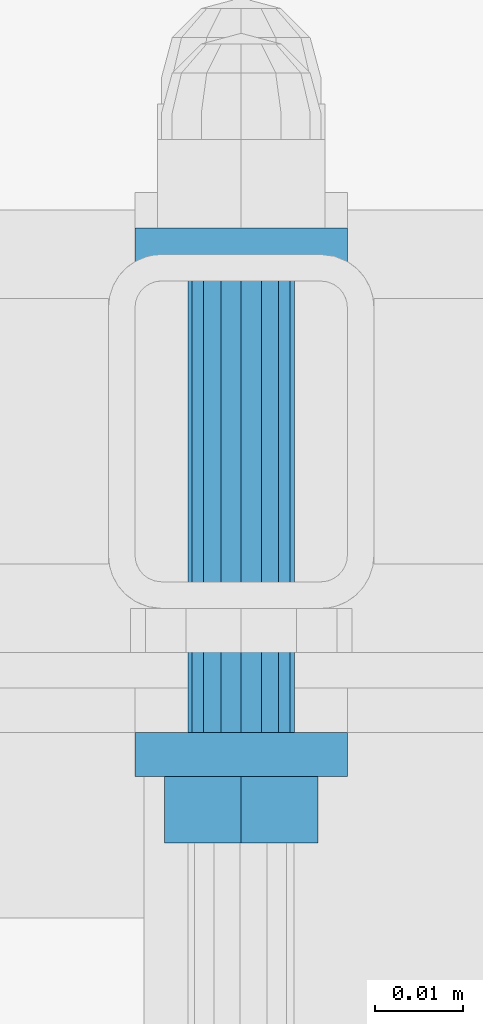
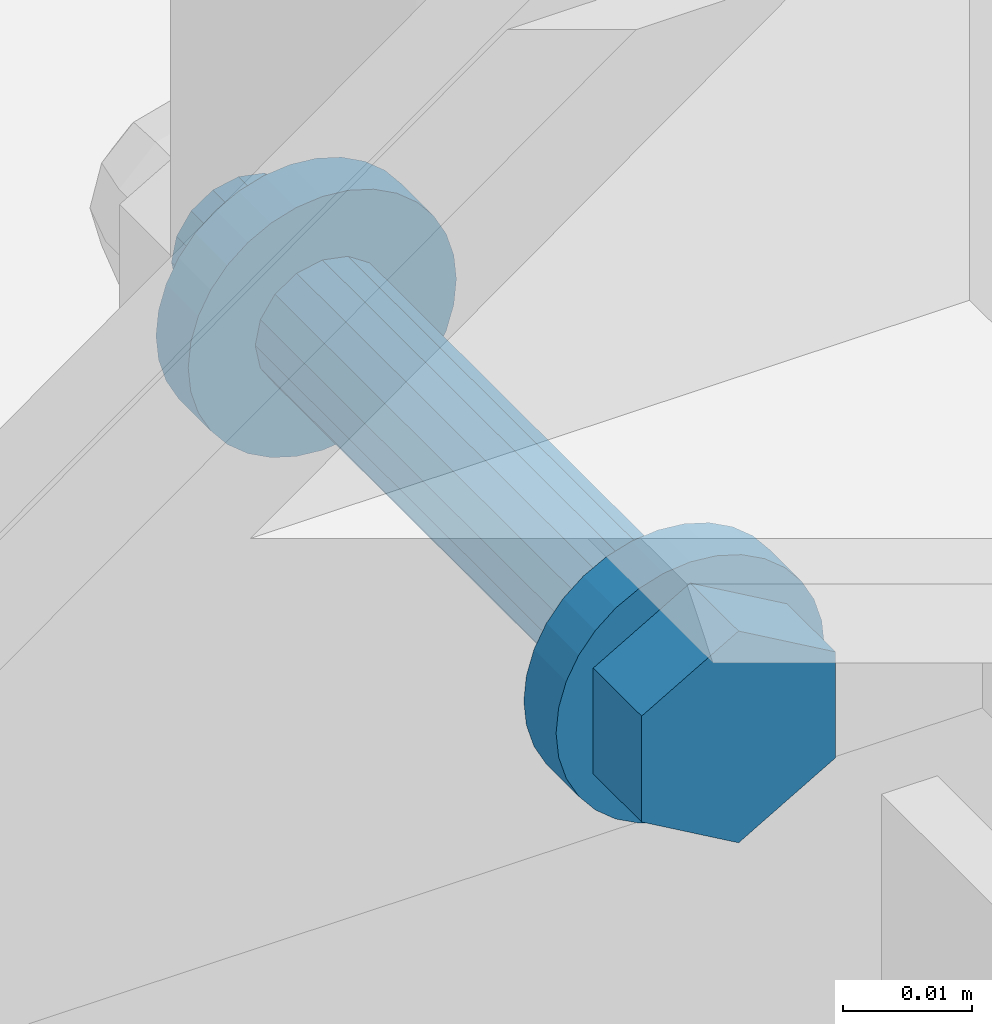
# One storey, part 84 of 116: 1 mechanical fastener.
"""IFC2X3 building model written with IfcOpenShell, lengths in millimetres."""

from ifc_helpers import new_model, entity, si_unit, converted_unit, origin_with_axes, place, context, project, spatial, faceted_brep, element, save


model = new_model("IFC2X3")

# Units and contexts
model_context = context("Model", 3, precision=1e-09, world=origin_with_axes())
ifc_project = project(units=[si_unit("LENGTHUNIT", "METRE", prefix="MILLI"), si_unit("AREAUNIT", "SQUARE_METRE"), si_unit("VOLUMEUNIT", "CUBIC_METRE"), converted_unit("PLANEANGLEUNIT", "DEGREE", entity("IfcPlaneAngleMeasure", 0.01745329), si_unit("PLANEANGLEUNIT", "RADIAN"), dimensions=[0, 0, 0, 0, 0, 0, 0])], contexts=[model_context])

# Site, building, storey
site_placement = place(None, origin_with_axes())
site = spatial("IfcSite", under=ifc_project, at=site_placement, Name="Site", CompositionType="ELEMENT")
building_placement = place(site_placement, origin_with_axes())
building = spatial("IfcBuilding", under=site, at=building_placement, Name="Struktur 1", CompositionType="ELEMENT")
storey_placement = place(building_placement, origin_with_axes())
storey = spatial("IfcBuildingStorey", under=building, at=storey_placement, Name="Default Storey", CompositionType="ELEMENT", Elevation=0.0)

# Mechanical fastener
mechanical_fastener_placement = place(None, origin_with_axes())
element("IfcMechanicalFastener", 1, at=mechanical_fastener_placement, inside=storey, ObjectType="-", NominalDiameter=12.0, NominalLength=70.0, context=model_context, shape_type="Brep", body=[
    faceted_brep([(59725.049134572, 10418.858883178, -843.0), (59725.049134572, 10421.358883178, -843.0), (59725.279711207, 10421.358883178, -845.341083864), (59725.279711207, 10418.858883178, -845.341083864), (59725.962580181, 10421.358883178, -847.592201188), (59725.962580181, 10418.858883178, -847.592201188), (59727.071499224, 10421.358883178, -849.666842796), (59727.071499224, 10418.858883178, -849.666842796), (59728.563853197, 10421.358883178, -851.485281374), (59728.563853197, 10418.858883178, -851.485281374), (59730.382291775, 10421.358883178, -852.977635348), (59730.382291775, 10418.858883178, -852.977635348), (59732.456933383, 10421.358883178, -854.08655439), (59732.456933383, 10418.858883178, -854.08655439), (59734.708050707, 10421.358883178, -854.769423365), (59734.708050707, 10418.858883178, -854.769423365), (59737.049134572, 10421.358883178, -855.0), (59737.049134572, 10418.858883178, -855.0), (59739.390218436, 10421.358883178, -854.769423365), (59739.390218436, 10418.858883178, -854.769423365), (59741.64133576, 10421.358883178, -854.08655439), (59741.64133576, 10418.858883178, -854.08655439), (59743.715977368, 10421.358883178, -852.977635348), (59743.715977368, 10418.858883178, -852.977635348), (59745.534415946, 10421.358883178, -851.485281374), (59745.534415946, 10418.858883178, -851.485281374), (59747.026769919, 10421.358883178, -849.666842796), (59747.026769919, 10418.858883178, -849.666842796), (59748.135688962, 10421.358883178, -847.592201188), (59748.135688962, 10418.858883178, -847.592201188), (59748.818557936, 10421.358883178, -845.341083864), (59748.818557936, 10418.858883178, -845.341083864), (59749.049134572, 10421.358883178, -843.0), (59749.049134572, 10418.858883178, -843.0), (59748.818557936, 10421.358883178, -840.658916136), (59748.818557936, 10418.858883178, -840.658916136), (59748.135688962, 10421.358883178, -838.407798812), (59748.135688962, 10418.858883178, -838.407798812), (59747.026769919, 10421.358883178, -836.333157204), (59747.026769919, 10418.858883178, -836.333157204), (59745.534415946, 10421.358883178, -834.514718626), (59745.534415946, 10418.858883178, -834.514718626), (59743.715977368, 10421.358883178, -833.022364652), (59743.715977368, 10418.858883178, -833.022364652), (59741.64133576, 10421.358883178, -831.91344561), (59741.64133576, 10418.858883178, -831.91344561), (59739.390218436, 10421.358883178, -831.230576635), (59739.390218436, 10418.858883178, -831.230576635), (59737.049134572, 10421.358883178, -831.0), (59737.049134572, 10418.858883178, -831.0), (59734.708050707, 10421.358883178, -831.230576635), (59734.708050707, 10418.858883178, -831.230576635), (59732.456933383, 10421.358883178, -831.91344561), (59732.456933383, 10418.858883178, -831.91344561), (59730.382291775, 10421.358883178, -833.022364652), (59730.382291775, 10418.858883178, -833.022364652), (59728.563853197, 10421.358883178, -834.514718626), (59728.563853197, 10418.858883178, -834.514718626), (59727.071499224, 10421.358883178, -836.333157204), (59727.071499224, 10418.858883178, -836.333157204), (59725.962580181, 10421.358883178, -838.407798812), (59725.962580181, 10418.858883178, -838.407798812), (59725.279711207, 10421.358883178, -840.658916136), (59725.279711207, 10418.858883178, -840.658916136)], [[[0, 1, 2, 3]], [[3, 2, 4, 5]], [[5, 4, 6, 7]], [[7, 6, 8, 9]], [[9, 8, 10, 11]], [[11, 10, 12, 13]], [[13, 12, 14, 15]], [[15, 14, 16, 17]], [[17, 16, 18, 19]], [[19, 18, 20, 21]], [[21, 20, 22, 23]], [[23, 22, 24, 25]], [[25, 24, 26, 27]], [[27, 26, 28, 29]], [[29, 28, 30, 31]], [[31, 30, 32, 33]], [[33, 32, 34, 35]], [[35, 34, 36, 37]], [[37, 36, 38, 39]], [[39, 38, 40, 41]], [[41, 40, 42, 43]], [[43, 42, 44, 45]], [[45, 44, 46, 47]], [[47, 46, 48, 49]], [[49, 48, 50, 51]], [[51, 50, 52, 53]], [[53, 52, 54, 55]], [[55, 54, 56, 57]], [[57, 56, 58, 59]], [[59, 58, 60, 61]], [[61, 60, 62, 63]], [[63, 62, 1, 0]], [[0, 3, 5, 7, 9, 11, 13, 15, 17, 19, 21, 23, 25, 27, 29, 31, 33, 35, 37, 39, 41, 43, 45, 47, 49, 51, 53, 55, 57, 59, 61, 63]], [[1, 62, 60, 58, 56, 54, 52, 50, 48, 46, 44, 42, 40, 38, 36, 34, 32, 30, 28, 26, 24, 22, 20, 18, 16, 14, 12, 10, 8, 6, 4, 2]]]),
    faceted_brep([(59725.049134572, 10416.358883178, -843.0), (59725.049134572, 10418.858883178, -843.0), (59725.279711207, 10418.858883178, -845.341083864), (59725.279711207, 10416.358883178, -845.341083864), (59725.962580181, 10418.858883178, -847.592201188), (59725.962580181, 10416.358883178, -847.592201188), (59727.071499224, 10418.858883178, -849.666842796), (59727.071499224, 10416.358883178, -849.666842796), (59728.563853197, 10418.858883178, -851.485281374), (59728.563853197, 10416.358883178, -851.485281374), (59730.382291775, 10418.858883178, -852.977635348), (59730.382291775, 10416.358883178, -852.977635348), (59732.456933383, 10418.858883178, -854.08655439), (59732.456933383, 10416.358883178, -854.08655439), (59734.708050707, 10418.858883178, -854.769423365), (59734.708050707, 10416.358883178, -854.769423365), (59737.049134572, 10418.858883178, -855.0), (59737.049134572, 10416.358883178, -855.0), (59739.390218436, 10418.858883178, -854.769423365), (59739.390218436, 10416.358883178, -854.769423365), (59741.64133576, 10418.858883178, -854.08655439), (59741.64133576, 10416.358883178, -854.08655439), (59743.715977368, 10418.858883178, -852.977635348), (59743.715977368, 10416.358883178, -852.977635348), (59745.534415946, 10418.858883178, -851.485281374), (59745.534415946, 10416.358883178, -851.485281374), (59747.026769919, 10418.858883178, -849.666842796), (59747.026769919, 10416.358883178, -849.666842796), (59748.135688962, 10418.858883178, -847.592201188), (59748.135688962, 10416.358883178, -847.592201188), (59748.818557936, 10418.858883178, -845.341083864), (59748.818557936, 10416.358883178, -845.341083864), (59749.049134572, 10418.858883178, -843.0), (59749.049134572, 10416.358883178, -843.0), (59748.818557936, 10418.858883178, -840.658916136), (59748.818557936, 10416.358883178, -840.658916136), (59748.135688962, 10418.858883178, -838.407798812), (59748.135688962, 10416.358883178, -838.407798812), (59747.026769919, 10418.858883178, -836.333157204), (59747.026769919, 10416.358883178, -836.333157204), (59745.534415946, 10418.858883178, -834.514718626), (59745.534415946, 10416.358883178, -834.514718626), (59743.715977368, 10418.858883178, -833.022364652), (59743.715977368, 10416.358883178, -833.022364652), (59741.64133576, 10418.858883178, -831.91344561), (59741.64133576, 10416.358883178, -831.91344561), (59739.390218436, 10418.858883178, -831.230576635), (59739.390218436, 10416.358883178, -831.230576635), (59737.049134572, 10418.858883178, -831.0), (59737.049134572, 10416.358883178, -831.0), (59734.708050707, 10418.858883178, -831.230576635), (59734.708050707, 10416.358883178, -831.230576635), (59732.456933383, 10418.858883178, -831.91344561), (59732.456933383, 10416.358883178, -831.91344561), (59730.382291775, 10418.858883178, -833.022364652), (59730.382291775, 10416.358883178, -833.022364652), (59728.563853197, 10418.858883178, -834.514718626), (59728.563853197, 10416.358883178, -834.514718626), (59727.071499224, 10418.858883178, -836.333157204), (59727.071499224, 10416.358883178, -836.333157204), (59725.962580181, 10418.858883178, -838.407798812), (59725.962580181, 10416.358883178, -838.407798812), (59725.279711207, 10418.858883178, -840.658916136), (59725.279711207, 10416.358883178, -840.658916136)], [[[0, 1, 2, 3]], [[3, 2, 4, 5]], [[5, 4, 6, 7]], [[7, 6, 8, 9]], [[9, 8, 10, 11]], [[11, 10, 12, 13]], [[13, 12, 14, 15]], [[15, 14, 16, 17]], [[17, 16, 18, 19]], [[19, 18, 20, 21]], [[21, 20, 22, 23]], [[23, 22, 24, 25]], [[25, 24, 26, 27]], [[27, 26, 28, 29]], [[29, 28, 30, 31]], [[31, 30, 32, 33]], [[33, 32, 34, 35]], [[35, 34, 36, 37]], [[37, 36, 38, 39]], [[39, 38, 40, 41]], [[41, 40, 42, 43]], [[43, 42, 44, 45]], [[45, 44, 46, 47]], [[47, 46, 48, 49]], [[49, 48, 50, 51]], [[51, 50, 52, 53]], [[53, 52, 54, 55]], [[55, 54, 56, 57]], [[57, 56, 58, 59]], [[59, 58, 60, 61]], [[61, 60, 62, 63]], [[63, 62, 1, 0]], [[0, 3, 5, 7, 9, 11, 13, 15, 17, 19, 21, 23, 25, 27, 29, 31, 33, 35, 37, 39, 41, 43, 45, 47, 49, 51, 53, 55, 57, 59, 61, 63]], [[1, 62, 60, 58, 56, 54, 52, 50, 48, 46, 44, 42, 40, 38, 36, 34, 32, 30, 28, 26, 24, 22, 20, 18, 16, 14, 12, 10, 8, 6, 4, 2]]]),
    faceted_brep([(59745.722378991, 10416.358883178, -848.0075), (59745.722378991, 10408.858883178, -848.0075), (59737.049134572, 10408.858883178, -853.015), (59737.049134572, 10416.358883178, -853.015), (59728.375890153, 10408.858883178, -848.0075), (59728.375890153, 10416.358883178, -848.0075), (59728.375890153, 10408.858883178, -837.9925), (59728.375890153, 10416.358883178, -837.9925), (59737.049134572, 10408.858883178, -832.985), (59737.049134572, 10416.358883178, -832.985), (59745.722378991, 10408.858883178, -837.9925), (59745.722378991, 10416.358883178, -837.9925)], [[[0, 1, 2, 3]], [[3, 2, 4, 5]], [[5, 4, 6, 7]], [[7, 6, 8, 9]], [[9, 8, 10, 11]], [[11, 10, 1, 0]], [[4, 2, 1, 10, 8, 6]], [[0, 3, 5, 7, 9, 11]]]),
    faceted_brep([(59731.049134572, 10421.358883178, -843.0), (59731.049134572, 10473.357883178, -843.0), (59731.505857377, 10473.357883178, -845.296100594), (59731.505857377, 10421.358883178, -845.296100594), (59732.806493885, 10473.357883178, -847.242640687), (59732.806493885, 10421.358883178, -847.242640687), (59734.753033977, 10473.357883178, -848.543277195), (59734.753033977, 10421.358883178, -848.543277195), (59737.049134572, 10473.357883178, -849.0), (59737.049134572, 10421.358883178, -849.0), (59739.345235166, 10473.357883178, -848.543277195), (59739.345235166, 10421.358883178, -848.543277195), (59741.291775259, 10473.357883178, -847.242640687), (59741.291775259, 10421.358883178, -847.242640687), (59742.592411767, 10473.357883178, -845.296100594), (59742.592411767, 10421.358883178, -845.296100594), (59743.049134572, 10473.357883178, -843.0), (59743.049134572, 10421.358883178, -843.0), (59742.592411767, 10473.357883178, -840.703899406), (59742.592411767, 10421.358883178, -840.703899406), (59741.291775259, 10473.357883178, -838.757359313), (59741.291775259, 10421.358883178, -838.757359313), (59739.345235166, 10473.357883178, -837.456722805), (59739.345235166, 10421.358883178, -837.456722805), (59737.049134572, 10473.357883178, -837.0), (59737.049134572, 10421.358883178, -837.0), (59734.753033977, 10473.357883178, -837.456722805), (59734.753033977, 10421.358883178, -837.456722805), (59732.806493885, 10473.357883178, -838.757359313), (59732.806493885, 10421.358883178, -838.757359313), (59731.505857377, 10473.357883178, -840.703899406), (59731.505857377, 10421.358883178, -840.703899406)], [[[0, 1, 2, 3]], [[3, 2, 4, 5]], [[5, 4, 6, 7]], [[7, 6, 8, 9]], [[9, 8, 10, 11]], [[11, 10, 12, 13]], [[13, 12, 14, 15]], [[15, 14, 16, 17]], [[17, 16, 18, 19]], [[19, 18, 20, 21]], [[21, 20, 22, 23]], [[23, 22, 24, 25]], [[25, 24, 26, 27]], [[27, 26, 28, 29]], [[29, 28, 30, 31]], [[31, 30, 1, 0]], [[0, 3, 5, 7, 9, 11, 13, 15, 17, 19, 21, 23, 25, 27, 29, 31]], [[1, 30, 28, 26, 24, 22, 20, 18, 16, 14, 12, 10, 8, 6, 4, 2]]]),
    faceted_brep([(59725.049134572, 10473.357883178, -843.0), (59725.049134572, 10475.857883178, -843.0), (59725.279711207, 10475.857883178, -845.341083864), (59725.279711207, 10473.357883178, -845.341083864), (59725.962580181, 10475.857883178, -847.592201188), (59725.962580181, 10473.357883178, -847.592201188), (59727.071499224, 10475.857883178, -849.666842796), (59727.071499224, 10473.357883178, -849.666842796), (59728.563853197, 10475.857883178, -851.485281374), (59728.563853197, 10473.357883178, -851.485281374), (59730.382291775, 10475.857883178, -852.977635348), (59730.382291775, 10473.357883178, -852.977635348), (59732.456933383, 10475.857883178, -854.08655439), (59732.456933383, 10473.357883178, -854.08655439), (59734.708050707, 10475.857883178, -854.769423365), (59734.708050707, 10473.357883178, -854.769423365), (59737.049134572, 10475.857883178, -855.0), (59737.049134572, 10473.357883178, -855.0), (59739.390218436, 10475.857883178, -854.769423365), (59739.390218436, 10473.357883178, -854.769423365), (59741.64133576, 10475.857883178, -854.08655439), (59741.64133576, 10473.357883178, -854.08655439), (59743.715977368, 10475.857883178, -852.977635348), (59743.715977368, 10473.357883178, -852.977635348), (59745.534415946, 10475.857883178, -851.485281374), (59745.534415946, 10473.357883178, -851.485281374), (59747.026769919, 10475.857883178, -849.666842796), (59747.026769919, 10473.357883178, -849.666842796), (59748.135688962, 10475.857883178, -847.592201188), (59748.135688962, 10473.357883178, -847.592201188), (59748.818557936, 10475.857883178, -845.341083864), (59748.818557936, 10473.357883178, -845.341083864), (59749.049134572, 10475.857883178, -843.0), (59749.049134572, 10473.357883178, -843.0), (59748.818557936, 10475.857883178, -840.658916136), (59748.818557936, 10473.357883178, -840.658916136), (59748.135688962, 10475.857883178, -838.407798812), (59748.135688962, 10473.357883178, -838.407798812), (59747.026769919, 10475.857883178, -836.333157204), (59747.026769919, 10473.357883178, -836.333157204), (59745.534415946, 10475.857883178, -834.514718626), (59745.534415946, 10473.357883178, -834.514718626), (59743.715977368, 10475.857883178, -833.022364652), (59743.715977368, 10473.357883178, -833.022364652), (59741.64133576, 10475.857883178, -831.91344561), (59741.64133576, 10473.357883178, -831.91344561), (59739.390218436, 10475.857883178, -831.230576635), (59739.390218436, 10473.357883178, -831.230576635), (59737.049134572, 10475.857883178, -831.0), (59737.049134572, 10473.357883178, -831.0), (59734.708050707, 10475.857883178, -831.230576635), (59734.708050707, 10473.357883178, -831.230576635), (59732.456933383, 10475.857883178, -831.91344561), (59732.456933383, 10473.357883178, -831.91344561), (59730.382291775, 10475.857883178, -833.022364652), (59730.382291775, 10473.357883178, -833.022364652), (59728.563853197, 10475.857883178, -834.514718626), (59728.563853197, 10473.357883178, -834.514718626), (59727.071499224, 10475.857883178, -836.333157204), (59727.071499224, 10473.357883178, -836.333157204), (59725.962580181, 10475.857883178, -838.407798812), (59725.962580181, 10473.357883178, -838.407798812), (59725.279711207, 10475.857883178, -840.658916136), (59725.279711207, 10473.357883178, -840.658916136)], [[[0, 1, 2, 3]], [[3, 2, 4, 5]], [[5, 4, 6, 7]], [[7, 6, 8, 9]], [[9, 8, 10, 11]], [[11, 10, 12, 13]], [[13, 12, 14, 15]], [[15, 14, 16, 17]], [[17, 16, 18, 19]], [[19, 18, 20, 21]], [[21, 20, 22, 23]], [[23, 22, 24, 25]], [[25, 24, 26, 27]], [[27, 26, 28, 29]], [[29, 28, 30, 31]], [[31, 30, 32, 33]], [[33, 32, 34, 35]], [[35, 34, 36, 37]], [[37, 36, 38, 39]], [[39, 38, 40, 41]], [[41, 40, 42, 43]], [[43, 42, 44, 45]], [[45, 44, 46, 47]], [[47, 46, 48, 49]], [[49, 48, 50, 51]], [[51, 50, 52, 53]], [[53, 52, 54, 55]], [[55, 54, 56, 57]], [[57, 56, 58, 59]], [[59, 58, 60, 61]], [[61, 60, 62, 63]], [[63, 62, 1, 0]], [[0, 3, 5, 7, 9, 11, 13, 15, 17, 19, 21, 23, 25, 27, 29, 31, 33, 35, 37, 39, 41, 43, 45, 47, 49, 51, 53, 55, 57, 59, 61, 63]], [[1, 62, 60, 58, 56, 54, 52, 50, 48, 46, 44, 42, 40, 38, 36, 34, 32, 30, 28, 26, 24, 22, 20, 18, 16, 14, 12, 10, 8, 6, 4, 2]]]),
    faceted_brep([(59725.049134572, 10475.857883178, -843.0), (59725.049134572, 10478.357883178, -843.0), (59725.279711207, 10478.357883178, -845.341083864), (59725.279711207, 10475.857883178, -845.341083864), (59725.962580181, 10478.357883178, -847.592201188), (59725.962580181, 10475.857883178, -847.592201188), (59727.071499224, 10478.357883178, -849.666842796), (59727.071499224, 10475.857883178, -849.666842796), (59728.563853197, 10478.357883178, -851.485281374), (59728.563853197, 10475.857883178, -851.485281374), (59730.382291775, 10478.357883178, -852.977635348), (59730.382291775, 10475.857883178, -852.977635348), (59732.456933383, 10478.357883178, -854.08655439), (59732.456933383, 10475.857883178, -854.08655439), (59734.708050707, 10478.357883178, -854.769423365), (59734.708050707, 10475.857883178, -854.769423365), (59737.049134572, 10478.357883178, -855.0), (59737.049134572, 10475.857883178, -855.0), (59739.390218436, 10478.357883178, -854.769423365), (59739.390218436, 10475.857883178, -854.769423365), (59741.64133576, 10478.357883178, -854.08655439), (59741.64133576, 10475.857883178, -854.08655439), (59743.715977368, 10478.357883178, -852.977635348), (59743.715977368, 10475.857883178, -852.977635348), (59745.534415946, 10478.357883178, -851.485281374), (59745.534415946, 10475.857883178, -851.485281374), (59747.026769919, 10478.357883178, -849.666842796), (59747.026769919, 10475.857883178, -849.666842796), (59748.135688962, 10478.357883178, -847.592201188), (59748.135688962, 10475.857883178, -847.592201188), (59748.818557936, 10478.357883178, -845.341083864), (59748.818557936, 10475.857883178, -845.341083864), (59749.049134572, 10478.357883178, -843.0), (59749.049134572, 10475.857883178, -843.0), (59748.818557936, 10478.357883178, -840.658916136), (59748.818557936, 10475.857883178, -840.658916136), (59748.135688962, 10478.357883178, -838.407798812), (59748.135688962, 10475.857883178, -838.407798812), (59747.026769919, 10478.357883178, -836.333157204), (59747.026769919, 10475.857883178, -836.333157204), (59745.534415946, 10478.357883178, -834.514718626), (59745.534415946, 10475.857883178, -834.514718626), (59743.715977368, 10478.357883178, -833.022364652), (59743.715977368, 10475.857883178, -833.022364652), (59741.64133576, 10478.357883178, -831.91344561), (59741.64133576, 10475.857883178, -831.91344561), (59739.390218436, 10478.357883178, -831.230576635), (59739.390218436, 10475.857883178, -831.230576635), (59737.049134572, 10478.357883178, -831.0), (59737.049134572, 10475.857883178, -831.0), (59734.708050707, 10478.357883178, -831.230576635), (59734.708050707, 10475.857883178, -831.230576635), (59732.456933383, 10478.357883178, -831.91344561), (59732.456933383, 10475.857883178, -831.91344561), (59730.382291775, 10478.357883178, -833.022364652), (59730.382291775, 10475.857883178, -833.022364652), (59728.563853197, 10478.357883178, -834.514718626), (59728.563853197, 10475.857883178, -834.514718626), (59727.071499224, 10478.357883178, -836.333157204), (59727.071499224, 10475.857883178, -836.333157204), (59725.962580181, 10478.357883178, -838.407798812), (59725.962580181, 10475.857883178, -838.407798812), (59725.279711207, 10478.357883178, -840.658916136), (59725.279711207, 10475.857883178, -840.658916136)], [[[0, 1, 2, 3]], [[3, 2, 4, 5]], [[5, 4, 6, 7]], [[7, 6, 8, 9]], [[9, 8, 10, 11]], [[11, 10, 12, 13]], [[13, 12, 14, 15]], [[15, 14, 16, 17]], [[17, 16, 18, 19]], [[19, 18, 20, 21]], [[21, 20, 22, 23]], [[23, 22, 24, 25]], [[25, 24, 26, 27]], [[27, 26, 28, 29]], [[29, 28, 30, 31]], [[31, 30, 32, 33]], [[33, 32, 34, 35]], [[35, 34, 36, 37]], [[37, 36, 38, 39]], [[39, 38, 40, 41]], [[41, 40, 42, 43]], [[43, 42, 44, 45]], [[45, 44, 46, 47]], [[47, 46, 48, 49]], [[49, 48, 50, 51]], [[51, 50, 52, 53]], [[53, 52, 54, 55]], [[55, 54, 56, 57]], [[57, 56, 58, 59]], [[59, 58, 60, 61]], [[61, 60, 62, 63]], [[63, 62, 1, 0]], [[0, 3, 5, 7, 9, 11, 13, 15, 17, 19, 21, 23, 25, 27, 29, 31, 33, 35, 37, 39, 41, 43, 45, 47, 49, 51, 53, 55, 57, 59, 61, 63]], [[1, 62, 60, 58, 56, 54, 52, 50, 48, 46, 44, 42, 40, 38, 36, 34, 32, 30, 28, 26, 24, 22, 20, 18, 16, 14, 12, 10, 8, 6, 4, 2]]]),
    faceted_brep([(59731.049134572, 10478.357883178, -843.0), (59731.049134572, 10486.358883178, -843.0), (59731.505857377, 10486.358883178, -845.296100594), (59731.505857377, 10478.357883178, -845.296100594), (59732.806493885, 10486.358883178, -847.242640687), (59732.806493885, 10478.357883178, -847.242640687), (59734.753033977, 10486.358883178, -848.543277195), (59734.753033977, 10478.357883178, -848.543277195), (59737.049134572, 10486.358883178, -849.0), (59737.049134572, 10478.357883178, -849.0), (59739.345235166, 10486.358883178, -848.543277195), (59739.345235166, 10478.357883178, -848.543277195), (59741.291775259, 10486.358883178, -847.242640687), (59741.291775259, 10478.357883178, -847.242640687), (59742.592411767, 10486.358883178, -845.296100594), (59742.592411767, 10478.357883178, -845.296100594), (59743.049134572, 10486.358883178, -843.0), (59743.049134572, 10478.357883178, -843.0), (59742.592411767, 10486.358883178, -840.703899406), (59742.592411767, 10478.357883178, -840.703899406), (59741.291775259, 10486.358883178, -838.757359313), (59741.291775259, 10478.357883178, -838.757359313), (59739.345235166, 10486.358883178, -837.456722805), (59739.345235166, 10478.357883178, -837.456722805), (59737.049134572, 10486.358883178, -837.0), (59737.049134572, 10478.357883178, -837.0), (59734.753033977, 10486.358883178, -837.456722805), (59734.753033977, 10478.357883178, -837.456722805), (59732.806493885, 10486.358883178, -838.757359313), (59732.806493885, 10478.357883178, -838.757359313), (59731.505857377, 10486.358883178, -840.703899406), (59731.505857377, 10478.357883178, -840.703899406)], [[[0, 1, 2, 3]], [[3, 2, 4, 5]], [[5, 4, 6, 7]], [[7, 6, 8, 9]], [[9, 8, 10, 11]], [[11, 10, 12, 13]], [[13, 12, 14, 15]], [[15, 14, 16, 17]], [[17, 16, 18, 19]], [[19, 18, 20, 21]], [[21, 20, 22, 23]], [[23, 22, 24, 25]], [[25, 24, 26, 27]], [[27, 26, 28, 29]], [[29, 28, 30, 31]], [[31, 30, 1, 0]], [[0, 3, 5, 7, 9, 11, 13, 15, 17, 19, 21, 23, 25, 27, 29, 31]], [[1, 30, 28, 26, 24, 22, 20, 18, 16, 14, 12, 10, 8, 6, 4, 2]]]),
])

save(model, "model.ifc")
